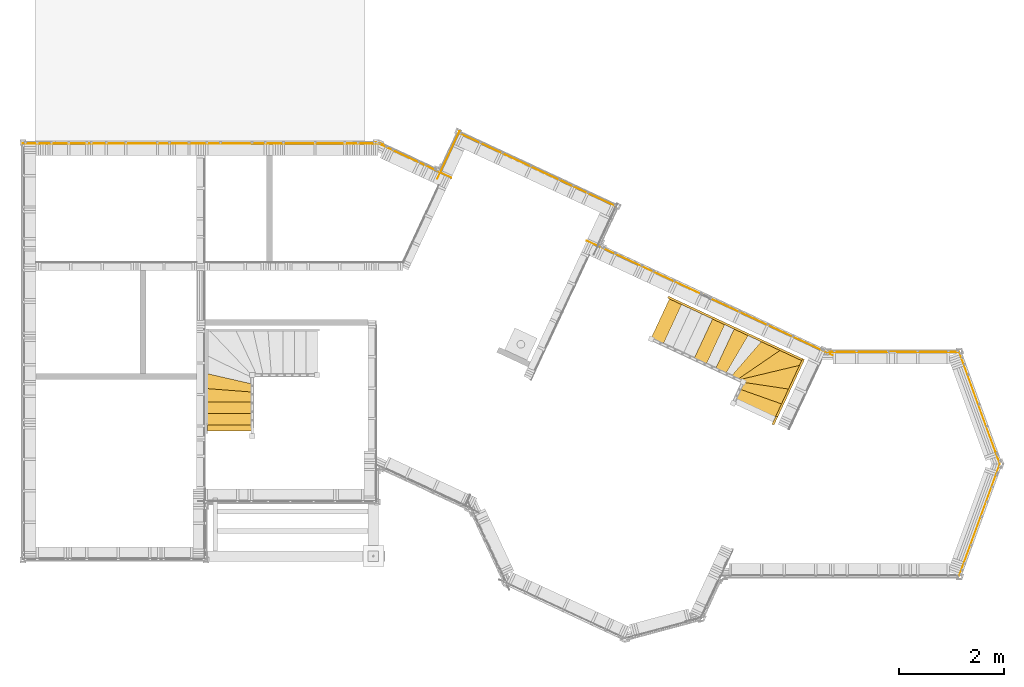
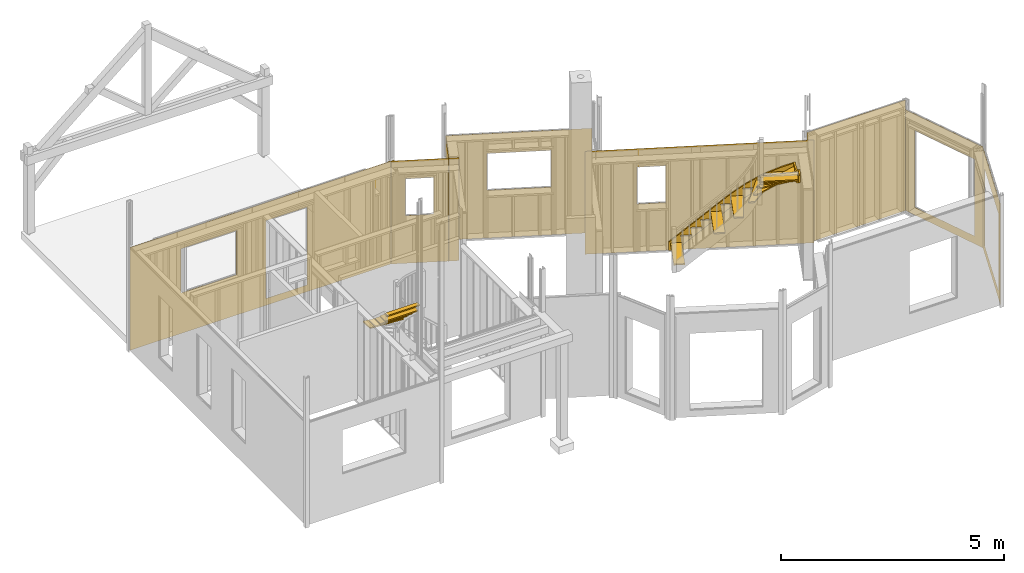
# One storey, part 31 of 34: 23 curtain walls.
"""IFC2X3 building model written with IfcOpenShell, lengths in metres."""

from ifc_helpers import new_model, si_unit, direction, frame, origin_with_axes, place, context, subcontext, project, spatial, faceted_brep, material, element, save


model = new_model("IFC2X3")

# Units and contexts
model_context = context("Model", 3, precision=1e-06, world=origin_with_axes(), true_north=direction((0.0, 1.0, 0.0)))
body_context = subcontext(model_context, "Body", "Model", "MODEL_VIEW")
ifc_project = project(units=[si_unit("LENGTHUNIT", "METRE"), si_unit("AREAUNIT", "SQUARE_METRE"), si_unit("VOLUMEUNIT", "CUBIC_METRE"), si_unit("PLANEANGLEUNIT", "RADIAN")], contexts=[model_context])

# Site, building, storey
site_placement = place(None, origin_with_axes())
site = spatial("IfcSite", under=ifc_project, at=site_placement, CompositionType="ELEMENT")
building_placement = place(site_placement, origin_with_axes())
building = spatial("IfcBuilding", under=site, at=building_placement, Name="Building 1", CompositionType="ELEMENT")
storey_placement = place(building_placement, origin_with_axes())
storey = spatial("IfcBuildingStorey", under=building, at=storey_placement, Name="Rez de chaussée", CompositionType="ELEMENT", Elevation=0.0)

# Curtain walls
ifc_material_1 = material(Name="NH II")
curtain_wall_1_placement = place(storey_placement, frame((14.3866404, 2.8070791, 2.764718), z_axis=(0.0, 0.0, 1.0), x_axis=(-0.9423753, 0.3345575, 0.0)))
element("IfcCurtainWall", 1, at=curtain_wall_1_placement, inside=storey, material=ifc_material_1, Name="Escalier", context=body_context, shape_type="Brep", body=[
    faceted_brep([(0.8537203, -0.14773, -0.0155), (0.8537203, -0.14773, 0.0155), (0.8377422, -0.14773, 0.0155), (0.8377422, -0.14773, -0.0155), (0.8742177, 0.0669349, 0.0155), (0.0280663, 0.14773, 0.0155), (0.0, -0.1462031, 0.0155), (0.0159276, -0.147724, 0.0155), (0.8376484, -0.147721, 0.0155), (0.8742177, 0.0669349, -0.0155), (0.0280663, 0.14773, -0.0155), (0.0, -0.1462031, -0.0155), (0.0159276, -0.147724, -0.0155), (0.8376484, -0.147721, -0.0155)], [[[0, 1, 2, 3]], [[2, 1, 4, 5, 6, 7, 8]], [[1, 0, 9, 4]], [[10, 11, 6, 5]], [[11, 12, 7, 6]], [[3, 2, 8, 13]], [[12, 13, 8, 7]], [[0, 3, 13, 12, 11, 10, 9]], [[9, 10, 5, 4]]]),
])
curtain_wall_2_placement = place(storey_placement, frame((14.8240701, 3.4837384, 2.363146), z_axis=(0.0, 0.0, 1.0), x_axis=(-0.9727415, -0.231892, 0.0)))
element("IfcCurtainWall", 2, at=curtain_wall_2_placement, inside=storey, material=ifc_material_1, Name="Escalier", context=body_context, shape_type="Brep", body=[
    faceted_brep([(0.325324, 0.210136, -0.0155), (1.1323533, -0.1143808, -0.0155), (1.144891, -0.1243211, -0.0155), (1.1220689, -0.1531066, -0.0155), (1.1781826, -0.1975953, -0.0155), (1.1682424, -0.2101329, -0.0155), (0.0125376, -0.210136, -0.0155), (0.0, -0.2001958, -0.0155), (0.325324, 0.210136, 0.0155), (0.0, -0.2001958, 0.0155), (0.0125376, -0.210136, 0.0155), (1.1781826, -0.1975953, 0.0155), (1.1682424, -0.2101329, 0.0155), (1.1220689, -0.1531066, 0.0155), (1.144891, -0.1243211, 0.0155), (1.1323533, -0.1143808, 0.0155)], [[[0, 1, 2, 3, 4, 5, 6, 7]], [[8, 0, 7, 9]], [[7, 6, 10, 9]], [[5, 4, 11, 12]], [[4, 3, 13, 11]], [[3, 2, 14, 13]], [[2, 1, 15, 14]], [[6, 5, 12, 10]], [[15, 8, 9, 10, 12, 11, 13, 14]], [[1, 0, 8, 15]]]),
])
ifc_material_2 = material(Name="pare-pluie")
curtain_wall_3_placement = place(storey_placement, frame((13.0548426, 4.9657206, -0.06), z_axis=(0.0, 0.0, 1.0), x_axis=(0.9063078, -0.4226183, 0.0)))
element("IfcCurtainWall", 3, at=curtain_wall_3_placement, inside=storey, material=ifc_material_2, Name="Pare-pluie", context=body_context, shape_type="Brep", body=[
    faceted_brep([(-0.769095, 0.00045, 2.32), (-0.769095, 0.00045, 1.312), (-0.769095, -0.00045, 1.312), (-0.769095, -0.00045, 2.32), (-1.409095, 0.00045, 2.32), (-1.409095, -0.00045, 2.32), (-1.409095, 0.00045, 1.312), (-1.409095, -0.00045, 1.312), (-2.581403, -0.00045, 2.823), (-2.581403, 0.00045, 2.823), (-2.581403, 0.00045, 0.0), (-2.581403, -0.00045, 0.0), (2.581403, -0.00045, 2.823), (2.581403, 0.00045, 2.823), (2.581403, 0.00045, 0.0), (2.581403, -0.00045, 0.0)], [[[0, 1, 2, 3]], [[4, 0, 3, 5]], [[6, 4, 5, 7]], [[1, 6, 7, 2]], [[8, 9, 10, 11]], [[12, 13, 9, 8]], [[9, 13, 14, 10], [0, 4, 6, 1]], [[13, 12, 15, 14]], [[14, 15, 11, 10]], [[12, 8, 11, 15], [7, 5, 3, 2]]]),
])
curtain_wall_4_placement = place(storey_placement, frame((4.348771, 3.0365129, 2.363146), z_axis=(0.0, 0.0, 1.0), x_axis=(-0.9970951, 0.0761669, 0.0)))
element("IfcCurtainWall", 4, at=curtain_wall_4_placement, inside=storey, material=ifc_material_1, Name="Escalier", context=body_context, shape_type="Brep", body=[
    faceted_brep([(0.3060289, -0.1405103, -0.0155), (0.3060289, -0.1405103, 0.0155), (0.0165213, -0.1405103, 0.0155), (0.0165213, -0.1405103, -0.0155), (0.8529507, -0.1405063, 0.0155), (0.8689042, -0.1392876, 0.0155), (0.8475308, 0.1405103, 0.0155), (0.0, 0.0757684, 0.0155), (0.8529507, -0.1405063, -0.0155), (0.0, 0.0757684, -0.0155), (0.8689042, -0.1392876, -0.0155), (0.8475308, 0.1405103, -0.0155)], [[[0, 1, 2, 3]], [[2, 1, 4, 5, 6, 7]], [[1, 0, 8, 4]], [[3, 2, 7, 9]], [[8, 10, 5, 4]], [[10, 11, 6, 5]], [[0, 3, 9, 11, 10, 8]], [[11, 9, 7, 6]]]),
])
curtain_wall_5_placement = place(storey_placement, frame((18.1920569, 2.8743259, -0.06), z_axis=(0.0, 0.0, 1.0), x_axis=(0.3420201, -0.9396926, 0.0)))
element("IfcCurtainWall", 5, at=curtain_wall_5_placement, inside=storey, material=ifc_material_2, Name="Pare-pluie", context=body_context, shape_type="Brep", body=[
    faceted_brep([(-1.1337751, 0.00045, 2.77), (-1.1337751, 0.00045, 0.0), (-1.1341026, -0.00045, 0.0), (-1.1341026, -0.00045, 2.77), (1.1330301, 0.00045, 0.0), (1.1341026, -0.00045, 0.0), (1.1330301, 0.00045, 2.77), (-0.8556301, 0.00045, 2.32), (-0.8556301, 0.00045, 0.212), (0.8932985, 0.00045, 0.212), (0.8932985, 0.00045, 2.32), (1.1341026, -0.00045, 2.77), (-0.8556301, -0.00045, 0.212), (-0.8556301, -0.00045, 2.32), (0.8932985, -0.00045, 2.32), (0.8932985, -0.00045, 0.212)], [[[0, 1, 2, 3]], [[2, 1, 4, 5]], [[1, 0, 6, 4], [7, 8, 9, 10]], [[5, 4, 6, 11]], [[0, 3, 11, 6]], [[3, 2, 5, 11], [12, 13, 14, 15]], [[15, 14, 10, 9]], [[12, 15, 9, 8]], [[13, 12, 8, 7]], [[14, 13, 7, 10]]]),
])
curtain_wall_6_placement = place(storey_placement, frame((4.343, 2.6469026, 2.764718), z_axis=(0.0, 0.0, 1.0), x_axis=(-1.0, 0.0, 0.0)))
element("IfcCurtainWall", 6, at=curtain_wall_6_placement, inside=storey, material=ifc_material_1, Name="Escalier", context=body_context, shape_type="Brep", body=[
    faceted_brep([(0.0, 0.124685, -0.0155), (0.0, -0.124685, -0.0155), (0.0, -0.124685, 0.0155), (0.0, 0.124685, 0.0155), (0.85, -0.124685, -0.0155), (0.85, 0.124685, -0.0155), (0.85, 0.124685, 0.0155), (0.85, -0.124685, 0.0155)], [[[0, 1, 2, 3]], [[4, 5, 6, 7]], [[1, 4, 7, 2]], [[2, 7, 6, 3]], [[0, 5, 4, 1]], [[5, 0, 3, 6]]]),
])
curtain_wall_7_placement = place(storey_placement, frame((18.1916537, 0.744126, -0.06), z_axis=(0.0, 0.0, 1.0), x_axis=(-0.3420201, -0.9396926, 0.0)))
element("IfcCurtainWall", 7, at=curtain_wall_7_placement, inside=storey, material=ifc_material_2, Name="Pare-pluie", context=body_context, shape_type="Brep", body=[
    faceted_brep([(-1.1328088, 0.00045, 0.0), (-1.1338814, -0.00045, 0.0), (-1.1338814, -0.00045, 2.77), (-1.1328088, 0.00045, 2.77), (1.1338814, -0.00045, 0.0), (1.1338814, -0.00045, 2.77), (-0.8944773, -0.00045, 0.212), (-0.8944773, -0.00045, 2.32), (0.8544511, -0.00045, 2.32), (0.8544511, -0.00045, 0.212), (1.1335538, 0.00045, 0.0), (1.1335538, 0.00045, 2.77), (-0.8944773, 0.00045, 0.212), (0.8544511, 0.00045, 0.212), (0.8544511, 0.00045, 2.32), (-0.8944773, 0.00045, 2.32)], [[[0, 1, 2, 3]], [[2, 1, 4, 5], [6, 7, 8, 9]], [[1, 0, 10, 4]], [[0, 3, 11, 10], [12, 13, 14, 15]], [[4, 10, 11, 5]], [[3, 2, 5, 11]], [[9, 8, 14, 13]], [[6, 9, 13, 12]], [[7, 6, 12, 15]], [[8, 7, 15, 14]]]),
])
curtain_wall_8_placement = place(storey_placement, frame((12.4111876, 4.9099669, 0.355286), z_axis=(0.0, 0.0, 1.0), x_axis=(-0.4226183, -0.9063078, 0.0)))
element("IfcCurtainWall", 8, at=curtain_wall_8_placement, inside=storey, material=ifc_material_1, Name="Escalier", context=body_context, shape_type="Brep", body=[
    faceted_brep([(0.0, 0.12811, -0.0155), (0.0, -0.12811, -0.0155), (0.0, -0.12811, 0.0155), (0.0, 0.12811, 0.0155), (0.85, -0.12811, -0.0155), (0.85, 0.12811, -0.0155), (0.85, 0.12811, 0.0155), (0.85, -0.12811, 0.0155)], [[[0, 1, 2, 3]], [[4, 5, 6, 7]], [[1, 4, 7, 2]], [[2, 7, 6, 3]], [[0, 5, 4, 1]], [[5, 0, 3, 6]]]),
])
curtain_wall_9_placement = place(storey_placement, frame((16.5287131, 3.9403299, -0.06), z_axis=(0.0, 0.0, 1.0), x_axis=(1.0, 0.0, 0.0)))
element("IfcCurtainWall", 9, at=curtain_wall_9_placement, inside=storey, material=ifc_material_2, Name="Pare-pluie", context=body_context, shape_type="Brep", body=[
    faceted_brep([(1.275035, -0.00045, 0.0), (1.2747074, 0.00045, 0.0), (1.2747074, 0.00045, 3.04), (1.275035, -0.00045, 3.04), (-1.275035, 0.00045, 0.0), (-1.275035, 0.00045, 3.04), (-1.275035, -0.00045, 0.0), (-1.275035, -0.00045, 3.04)], [[[0, 1, 2, 3]], [[2, 1, 4, 5]], [[1, 0, 6, 4]], [[3, 2, 5, 7]], [[4, 6, 7, 5]], [[0, 3, 7, 6]]]),
])
curtain_wall_10_placement = place(storey_placement, frame((12.1876409, 5.0191736, 0.2836738), z_axis=(0.5244068, -0.2445349, -0.8155981), x_axis=(0.7391829, -0.3446866, 0.5786188)))
element("IfcCurtainWall", 10, at=curtain_wall_10_placement, inside=storey, material=ifc_material_1, Name="Escalier", context=body_context, shape_type="Brep", body=[
    faceted_brep([(0.1347243, -0.0205, 0.2349537), (1.7630848, -0.0205, 0.056974), (0.1347243, 0.0205, 0.2349537), (1.7630848, 0.0205, 0.056974), (0.0, -0.0205, 0.1393747), (0.1265827, -0.0205, -0.0390512), (1.862701, -0.0205, -0.2288043), (2.0921516, -0.0205, 0.0352035), (2.1522899, -0.0205, -0.2498051), (2.4218751, -0.0205, 0.0416356), (2.4426393, -0.0205, -0.2496422), (2.7322044, -0.0205, -0.2283163), (2.7498424, -0.0205, 0.0762233), (3.019445, -0.0205, -0.1859411), (3.0736539, -0.0205, 0.1387135), (3.3028327, -0.0205, -0.1227418), (3.3909401, -0.0205, 0.2286489), (3.4859002, -0.0205, 0.0947971), (3.5193397, -0.0205, 0.1185204), (3.5808602, -0.0205, -0.0390548), (3.4243797, -0.0205, 0.2523723), (3.0407338, 0.0205, -0.1272199), (3.4546825, 0.0205, 0.1664523), (3.0484564, 0.0045, -0.1217412), (3.4546825, 0.0045, 0.1664523), (3.058671, 0.0205, -0.1525034), (3.0663936, 0.0045, -0.1470247), (3.4726197, 0.0205, 0.1411688), (3.4726197, 0.0045, 0.1411688), (2.6356381, 0.0045, -0.168429), (2.6319024, 0.0205, -0.1710792), (2.9529867, 0.0205, 0.0567112), (2.9529867, 0.0045, 0.0567112), (2.9709239, 0.0045, 0.0314277), (2.9709239, 0.0205, 0.0314277), (2.6535753, 0.0045, -0.1937125), (2.6498396, 0.0205, -0.1963628), (2.6498396, 0.0204895, -0.1963628), (2.6319024, 0.0204895, -0.1710792), (2.2687564, 0.0045, -0.1825274), (2.2675129, 0.0205, -0.1834096), (2.5411734, 0.0205, 0.0107364), (2.5411734, 0.0045, 0.0107364), (2.5591106, 0.0045, -0.0145471), (2.5591106, 0.0205, -0.0145471), (2.2866936, 0.0045, -0.2078109), (2.28545, 0.0205, -0.2086932), (2.28545, 0.0204686, -0.2086932), (2.2675129, 0.0204686, -0.1834096), (1.9349806, 0.0205, -0.1731392), (2.1759111, 0.0205, -0.0022132), (1.9349806, 0.0045, -0.1731392), (2.1759111, 0.0045, -0.0022132), (1.9529178, 0.0205, -0.1984227), (1.9529178, 0.0045, -0.1984227), (2.1938483, 0.0205, -0.0274967), (2.1938483, 0.0045, -0.0274967), (1.861199, 0.0205, -0.0173093), (1.861199, 0.0045, -0.0173093), (1.8432618, 0.0205, 0.0079743), (1.8432618, 0.0045, 0.0079743), (1.6342893, 0.0205, -0.1402795), (1.6342893, 0.0045, -0.1402795), (1.6522265, 0.0045, -0.165563), (1.6522265, 0.0205, -0.165563), (1.5605158, 0.0205, 0.0155562), (1.5605158, 0.0045, 0.0155562), (1.5425786, 0.0205, 0.0408398), (1.5425786, 0.0045, 0.0408398), (1.3336061, 0.0205, -0.1074139), (1.3336061, 0.0045, -0.1074139), (1.3515433, 0.0045, -0.1326975), (1.3515433, 0.0205, -0.1326975), (1.2598327, 0.0205, 0.0484218), (1.2598327, 0.0045, 0.0484218), (1.2418955, 0.0205, 0.0737053), (1.2418955, 0.0045, 0.0737053), (1.0329213, 0.0205, -0.0745496), (1.0329213, 0.0045, -0.0745496), (1.0508585, 0.0045, -0.0998331), (1.0508585, 0.0205, -0.0998331), (0.9591414, 0.0205, 0.0812815), (0.9591414, 0.0045, 0.0812815), (0.9412042, 0.0205, 0.106565), (0.9412042, 0.0045, 0.106565), (0.7322357, 0.0205, -0.0416858), (0.7322357, 0.0045, -0.0416858), (0.7501729, 0.0045, -0.0669693), (0.7501729, 0.0205, -0.0669693), (0.6584582, 0.0205, 0.114147), (0.6584582, 0.0045, 0.114147), (0.640521, 0.0205, 0.1394306), (0.640521, 0.0045, 0.1394306), (0.4315509, 0.0205, -0.0088214), (0.4315509, 0.0045, -0.0088214), (0.4494881, 0.0045, -0.034105), (0.4494881, 0.0205, -0.034105), (0.357775, 0.0205, 0.1470125), (0.357775, 0.0045, 0.1470125), (0.3398378, 0.0205, 0.1722961), (0.3398378, 0.0045, 0.1722961), (0.1308653, 0.0205, 0.0240424), (0.1308653, 0.0045, 0.0240424), (0.1488025, 0.0045, -0.0012412), (0.1488025, 0.0205, -0.0012412), (3.5193397, 0.0205, 0.1185204), (3.4243797, 0.0205, 0.2523723), (3.4859002, 0.0205, 0.0947971), (3.3909401, 0.0205, 0.2286489), (3.5808602, 0.0205, -0.0390548), (3.3028327, 0.0205, -0.1227418), (3.019445, 0.0205, -0.1859411), (2.7322044, 0.0205, -0.2283163), (2.4426393, 0.0205, -0.2496422), (2.1522899, 0.0205, -0.2498051), (1.862701, 0.0205, -0.2288043), (0.1265827, 0.0205, -0.0390512), (0.0, 0.0205, 0.1393747), (2.0921516, 0.0205, 0.0352035), (2.4218751, 0.0205, 0.0416356), (2.7498424, 0.0205, 0.0762233), (3.0736539, 0.0205, 0.1387135)], [[[0, 1, 2]], [[2, 1, 3]], [[4, 5, 0]], [[0, 5, 1]], [[5, 6, 1]], [[1, 6, 7]], [[6, 8, 7]], [[7, 8, 9]], [[8, 10, 9]], [[9, 10, 11]], [[9, 11, 12]], [[12, 11, 13]], [[12, 13, 14]], [[14, 13, 15]], [[14, 15, 16]], [[16, 15, 17]], [[16, 17, 18]], [[15, 19, 17]], [[18, 20, 16]], [[21, 22, 23]], [[23, 22, 24]], [[25, 26, 27]], [[27, 26, 28]], [[25, 21, 26]], [[26, 21, 23]], [[23, 24, 26]], [[26, 24, 28]], [[27, 28, 22]], [[22, 28, 24]], [[29, 30, 31]], [[29, 31, 32]], [[33, 34, 35]], [[35, 34, 36]], [[37, 38, 35]], [[35, 38, 29]], [[29, 32, 35]], [[35, 32, 33]], [[32, 31, 33]], [[33, 31, 34]], [[39, 40, 41]], [[39, 41, 42]], [[43, 44, 45]], [[45, 44, 46]], [[47, 48, 45]], [[45, 48, 39]], [[39, 42, 45]], [[45, 42, 43]], [[42, 41, 43]], [[43, 41, 44]], [[49, 50, 51]], [[51, 50, 52]], [[49, 51, 53]], [[53, 51, 54]], [[55, 53, 56]], [[56, 53, 54]], [[51, 52, 54]], [[54, 52, 56]], [[52, 50, 56]], [[56, 50, 55]], [[57, 58, 59]], [[59, 58, 60]], [[61, 59, 62]], [[62, 59, 60]], [[62, 60, 63]], [[63, 60, 58]], [[61, 62, 64]], [[64, 62, 63]], [[57, 64, 58]], [[58, 64, 63]], [[65, 66, 67]], [[67, 66, 68]], [[69, 67, 70]], [[70, 67, 68]], [[70, 68, 71]], [[71, 68, 66]], [[69, 70, 72]], [[72, 70, 71]], [[65, 72, 66]], [[66, 72, 71]], [[73, 74, 75]], [[75, 74, 76]], [[77, 75, 78]], [[78, 75, 76]], [[78, 76, 79]], [[79, 76, 74]], [[77, 78, 80]], [[80, 78, 79]], [[73, 80, 74]], [[74, 80, 79]], [[81, 82, 83]], [[83, 82, 84]], [[85, 83, 86]], [[86, 83, 84]], [[86, 84, 87]], [[87, 84, 82]], [[85, 86, 88]], [[88, 86, 87]], [[81, 88, 82]], [[82, 88, 87]], [[89, 90, 91]], [[91, 90, 92]], [[93, 91, 94]], [[94, 91, 92]], [[94, 92, 95]], [[95, 92, 90]], [[93, 94, 96]], [[96, 94, 95]], [[89, 96, 90]], [[90, 96, 95]], [[97, 98, 99]], [[99, 98, 100]], [[101, 99, 102]], [[102, 99, 100]], [[102, 100, 103]], [[103, 100, 98]], [[101, 102, 104]], [[104, 102, 103]], [[97, 104, 98]], [[98, 104, 103]], [[18, 105, 20]], [[20, 105, 106]], [[107, 105, 17]], [[17, 105, 18]], [[106, 108, 20]], [[20, 108, 16]], [[19, 15, 109]], [[109, 15, 110]], [[15, 13, 110]], [[110, 13, 111]], [[13, 11, 111]], [[111, 11, 112]], [[11, 10, 112]], [[112, 10, 113]], [[10, 8, 113]], [[113, 8, 114]], [[8, 6, 114]], [[114, 6, 115]], [[6, 5, 115]], [[115, 5, 116]], [[117, 116, 4]], [[4, 116, 5]], [[2, 117, 0]], [[0, 117, 4]], [[17, 19, 107]], [[107, 19, 109]], [[1, 7, 3]], [[3, 7, 118]], [[7, 9, 118]], [[118, 9, 119]], [[9, 12, 119]], [[119, 12, 120]], [[12, 14, 120]], [[120, 14, 121]], [[14, 16, 121]], [[121, 16, 108]], [[116, 117, 101]], [[101, 117, 2]], [[101, 2, 99]], [[99, 2, 91]], [[99, 91, 97]], [[97, 91, 93]], [[97, 93, 104]], [[104, 93, 116]], [[104, 116, 101]], [[91, 2, 83]], [[83, 2, 3]], [[83, 3, 75]], [[75, 3, 67]], [[75, 67, 73]], [[73, 67, 69]], [[73, 69, 80]], [[80, 69, 72]], [[80, 72, 115]], [[115, 72, 64]], [[115, 64, 57]], [[21, 111, 34]], [[34, 111, 112]], [[34, 112, 36]], [[36, 112, 113]], [[36, 113, 30]], [[30, 113, 44]], [[30, 44, 120]], [[120, 44, 41]], [[120, 41, 119]], [[119, 41, 40]], [[119, 40, 55]], [[55, 40, 114]], [[55, 114, 53]], [[53, 114, 115]], [[53, 115, 49]], [[49, 115, 57]], [[49, 57, 118]], [[118, 57, 59]], [[118, 59, 3]], [[3, 59, 61]], [[3, 61, 65]], [[65, 61, 72]], [[49, 118, 50]], [[50, 118, 119]], [[50, 119, 55]], [[30, 120, 31]], [[31, 120, 121]], [[31, 121, 34]], [[34, 121, 21]], [[21, 121, 22]], [[22, 121, 108]], [[22, 108, 106]], [[106, 105, 22]], [[22, 105, 27]], [[105, 107, 27]], [[27, 107, 110]], [[27, 110, 25]], [[25, 110, 111]], [[25, 111, 21]], [[107, 109, 110]], [[44, 113, 46]], [[46, 113, 114]], [[46, 114, 40]], [[115, 116, 80]], [[80, 116, 88]], [[80, 88, 77]], [[77, 88, 81]], [[77, 81, 75]], [[75, 81, 83]], [[61, 64, 72]], [[65, 67, 3]], [[88, 96, 85]], [[85, 96, 89]], [[85, 89, 83]], [[83, 89, 91]], [[93, 96, 116]], [[116, 96, 88]]]),
])
curtain_wall_11_placement = place(storey_placement, frame((13.2312965, 4.5275438, 1.15843), z_axis=(0.0, 0.0, 1.0), x_axis=(-0.4226183, -0.9063078, 0.0)))
element("IfcCurtainWall", 11, at=curtain_wall_11_placement, inside=storey, material=ifc_material_1, Name="Escalier", context=body_context, shape_type="Brep", body=[
    faceted_brep([(0.0, 0.12811, -0.0155), (0.0, -0.12811, -0.0155), (0.0, -0.12811, 0.0155), (0.0, 0.12811, 0.0155), (0.85, -0.12811, -0.0155), (0.85, 0.12811, -0.0155), (0.85, 0.12811, 0.0155), (0.85, -0.12811, 0.0155)], [[[0, 1, 2, 3]], [[4, 5, 6, 7]], [[1, 4, 7, 2]], [[2, 7, 6, 3]], [[0, 5, 4, 1]], [[5, 0, 3, 6]]]),
])
curtain_wall_12_placement = place(storey_placement, frame((13.6591115, 4.3280504, 1.560002), z_axis=(0.0, 0.0, 1.0), x_axis=(-0.4226183, -0.9063078, 0.0)))
element("IfcCurtainWall", 12, at=curtain_wall_12_placement, inside=storey, material=ifc_material_1, Name="Escalier", context=body_context, shape_type="Brep", body=[
    faceted_brep([(0.85, 0.068067, 0.0155), (0.016, 0.1477017, 0.0155), (0.0, 0.1477017, 0.0155), (0.0, -0.1477017, 0.0155), (0.85, -0.1477017, 0.0155), (0.0, 0.1477017, -0.0155), (0.0, -0.1477017, -0.0155), (0.016, 0.1477017, -0.0155), (0.85, 0.068067, -0.0155), (0.85, -0.1477017, -0.0155)], [[[0, 1, 2, 3, 4]], [[5, 6, 3, 2]], [[7, 5, 2, 1]], [[8, 0, 4, 9]], [[6, 9, 4, 3]], [[7, 8, 9, 6, 5]], [[8, 7, 1, 0]]]),
])
curtain_wall_13_placement = place(storey_placement, frame((14.8452533, 3.8128129, 2.1470715), z_axis=(-0.2101108, -0.4505841, -0.8676563), x_axis=(-0.3666874, -0.7863637, 0.4971645)))
element("IfcCurtainWall", 13, at=curtain_wall_13_placement, inside=storey, material=ifc_material_1, Name="Escalier", context=body_context, shape_type="Brep", body=[
    faceted_brep([(1.561026, 0.0205, -0.0309406), (1.561026, 0.0045, -0.0309406), (1.4621132, 0.0205, -0.0876174), (1.4621132, 0.0045, -0.0876174), (1.5764361, 0.0045, -0.0578345), (1.4775253, 0.0045, -0.1145147), (1.4775253, 0.0205, -0.1145147), (1.5764381, 0.0205, -0.057838), (1.5764361, -0.0205, -0.0578345), (1.4678817, -0.0205, 0.1316156), (1.4678817, 0.0205, 0.1316156), (1.3883192, 0.0205, 0.1015108), (1.3883192, 0.0045, 0.1015108), (1.1321263, 0.0205, -0.045287), (1.1321263, 0.0045, -0.045287), (1.1475384, 0.0205, -0.0721843), (1.1475384, 0.0045, -0.0721843), (1.4037313, 0.0205, 0.0746135), (1.4037313, 0.0045, 0.0746135), (1.0584455, 0.0205, 0.1439061), (1.0571199, 0.0045, 0.1431465), (0.7612815, 0.0205, -0.026368), (0.7612815, 0.0045, -0.026368), (1.0738576, 0.0205, 0.1170087), (0.7766936, 0.0205, -0.0532654), (1.072532, 0.0045, 0.1162492), (0.7766936, 0.0045, -0.0532654), (0.704018, 0.0205, 0.1365036), (0.245558, 0.0205, -0.1261926), (0.699905, 0.0045, 0.1341469), (0.245558, 0.0045, -0.1261926), (0.6886059, 0.0205, 0.163401), (0.6844929, 0.0045, 0.1610443), (0.2301459, 0.0205, -0.0992952), (0.2301459, 0.0045, -0.0992952), (0.0589687, 0.0045, -0.0016958), (0.1679458, 0.0045, 0.0607478), (0.0589687, 0.0205, -0.0016958), (0.1789523, 0.0205, 0.0670545), (0.1635402, 0.0205, 0.0939518), (0.1525337, 0.0045, 0.0876451), (0.0435566, 0.0045, 0.0252015), (0.0435566, 0.0205, 0.0252015), (1.6163396, 0.0205, -0.0349699), (1.6362262, 0.0205, -0.0696761), (1.4857487, 0.0205, -0.1558993), (1.074707, 0.0205, 0.1821432), (0.9876612, 0.0205, -0.0975558), (1.1534362, 0.0205, -0.1132718), (0.8212098, 0.0205, -0.0928336), (0.6548104, 0.0205, -0.0991258), (0.3250763, 0.0205, -0.1445955), (0.4891911, 0.0205, -0.116405), (0.1631843, 0.0205, -0.1835739), (0.0815922, 0.0205, -0.0411785), (0.1276104, 0.0205, -0.2039577), (0.0460182, 0.0205, -0.0615622), (0.0, 0.0205, 0.1012169), (0.1754593, 0.0205, 0.1449616), (0.353475, 0.0205, 0.1767418), (0.5332321, 0.0205, 0.1964122), (0.713908, 0.0205, 0.2038827), (0.8946754, 0.0205, 0.1991191), (0.1276104, -0.0205, -0.2039577), (0.0460182, -0.0205, -0.0615622), (0.0815922, -0.0205, -0.0411785), (0.1631843, -0.0205, -0.1835739), (1.4857487, -0.0205, -0.1558993), (1.6362262, -0.0205, -0.0696761), (1.6163396, -0.0205, -0.0349699), (1.074707, -0.0205, 0.1821432), (0.0, -0.0205, 0.1012169), (0.1754593, -0.0205, 0.1449616), (0.353475, -0.0205, 0.1767418), (0.5332321, -0.0205, 0.1964122), (0.713908, -0.0205, 0.2038827), (0.8946754, -0.0205, 0.1991191), (1.1534362, -0.0205, -0.1132718), (0.9876612, -0.0205, -0.0975558), (0.8212098, -0.0205, -0.0928336), (0.6548104, -0.0205, -0.0991258), (0.4891911, -0.0205, -0.116405), (0.3250763, -0.0205, -0.1445955)], [[[0, 1, 2]], [[2, 1, 3]], [[1, 4, 3]], [[3, 4, 5]], [[2, 3, 6]], [[6, 3, 5]], [[6, 5, 7]], [[7, 5, 4]], [[4, 1, 8]], [[8, 1, 9]], [[0, 10, 1]], [[1, 10, 9]], [[11, 12, 13]], [[13, 12, 14]], [[15, 16, 17]], [[17, 16, 18]], [[14, 12, 16]], [[16, 12, 18]], [[13, 14, 15]], [[15, 14, 16]], [[17, 18, 11]], [[11, 18, 12]], [[19, 20, 21]], [[21, 20, 22]], [[23, 24, 25]], [[25, 24, 26]], [[25, 26, 20]], [[20, 26, 22]], [[21, 22, 24]], [[24, 22, 26]], [[23, 25, 19]], [[19, 25, 20]], [[27, 28, 29]], [[29, 28, 30]], [[27, 29, 31]], [[31, 29, 32]], [[31, 32, 33]], [[33, 32, 34]], [[29, 30, 32]], [[32, 30, 34]], [[33, 34, 28]], [[28, 34, 30]], [[35, 36, 37]], [[37, 36, 38]], [[38, 36, 39]], [[39, 36, 40]], [[41, 40, 35]], [[35, 40, 36]], [[41, 42, 40]], [[40, 42, 39]], [[7, 43, 44]], [[7, 44, 45]], [[46, 11, 23]], [[23, 11, 13]], [[23, 13, 47]], [[47, 13, 15]], [[47, 15, 48]], [[48, 15, 2]], [[48, 2, 45]], [[45, 2, 6]], [[45, 6, 7]], [[23, 47, 24]], [[24, 47, 49]], [[24, 49, 50]], [[51, 28, 52]], [[52, 28, 27]], [[52, 27, 50]], [[50, 27, 21]], [[50, 21, 24]], [[51, 53, 28]], [[28, 53, 33]], [[33, 53, 54]], [[54, 53, 55]], [[54, 55, 56]], [[37, 38, 54]], [[54, 38, 33]], [[42, 57, 39]], [[39, 57, 58]], [[39, 58, 38]], [[38, 58, 59]], [[38, 59, 33]], [[33, 59, 60]], [[33, 60, 31]], [[31, 60, 61]], [[31, 61, 27]], [[27, 61, 62]], [[27, 62, 21]], [[21, 62, 19]], [[62, 46, 19]], [[19, 46, 23]], [[46, 10, 11]], [[11, 10, 17]], [[10, 0, 17]], [[17, 0, 2]], [[17, 2, 15]], [[55, 63, 56]], [[56, 63, 64]], [[65, 54, 64]], [[64, 54, 56]], [[53, 66, 55]], [[55, 66, 63]], [[45, 44, 67]], [[67, 44, 68]], [[44, 43, 68]], [[68, 43, 69]], [[8, 69, 4]], [[4, 69, 43]], [[4, 43, 7]], [[10, 46, 9]], [[9, 46, 70]], [[71, 72, 57]], [[57, 72, 58]], [[72, 73, 58]], [[58, 73, 59]], [[73, 74, 59]], [[59, 74, 60]], [[74, 75, 60]], [[60, 75, 61]], [[75, 76, 61]], [[61, 76, 62]], [[76, 70, 62]], [[62, 70, 46]], [[67, 77, 45]], [[45, 77, 48]], [[68, 8, 67]], [[67, 8, 9]], [[67, 9, 77]], [[77, 9, 70]], [[77, 70, 78]], [[78, 70, 76]], [[78, 76, 79]], [[79, 76, 75]], [[79, 75, 80]], [[80, 75, 74]], [[80, 74, 81]], [[81, 74, 73]], [[81, 73, 82]], [[82, 73, 72]], [[82, 72, 65]], [[65, 72, 71]], [[68, 69, 8]], [[82, 65, 66]], [[66, 65, 64]], [[66, 64, 63]], [[77, 78, 48]], [[48, 78, 47]], [[78, 79, 47]], [[47, 79, 49]], [[79, 80, 49]], [[49, 80, 50]], [[80, 81, 50]], [[50, 81, 52]], [[81, 82, 52]], [[52, 82, 51]], [[82, 66, 51]], [[51, 66, 53]], [[37, 54, 35]], [[35, 54, 65]], [[35, 65, 41]], [[41, 65, 71]], [[41, 71, 57]], [[57, 42, 41]]]),
])
curtain_wall_14_placement = place(storey_placement, frame((14.5437457, 3.0685349, 2.563932), z_axis=(0.0, 0.0, 1.0), x_axis=(-0.9890231, 0.1477612, 0.0)))
element("IfcCurtainWall", 14, at=curtain_wall_14_placement, inside=storey, material=ifc_material_1, Name="Escalier", context=body_context, shape_type="Brep", body=[
    faceted_brep([(0.9191199, 0.0051775, 0.0155), (0.0968546, 0.165731, 0.0155), (0.0, -0.161186, 0.0155), (0.0153409, -0.165731, 0.0155), (0.8684866, -0.1657272, 0.0155), (0.8851728, -0.165731, 0.0155), (0.9344608, 0.0006325, 0.0155), (0.8851728, -0.165731, -0.0155), (0.8684995, -0.165731, -0.0155), (0.9344608, 0.0006325, -0.0155), (0.0968546, 0.165731, -0.0155), (0.0, -0.161186, -0.0155), (0.0153409, -0.165731, -0.0155), (0.9191199, 0.0051775, -0.0155)], [[[0, 1, 2, 3, 4, 5, 6]], [[7, 5, 4, 8]], [[5, 7, 9, 6]], [[1, 10, 11, 2]], [[11, 12, 3, 2]], [[8, 4, 8]], [[9, 13, 0, 6]], [[12, 8, 4, 3]], [[10, 13, 9, 7, 8, 12, 11]], [[13, 10, 1, 0]]]),
])
curtain_wall_15_placement = place(storey_placement, frame((14.2587551, 4.1045908, 1.961574), z_axis=(0.0, 0.0, 1.0), x_axis=(-0.655858, -0.7548843, 0.0)))
element("IfcCurtainWall", 15, at=curtain_wall_15_placement, inside=storey, material=ifc_material_1, Name="Escalier", context=body_context, shape_type="Brep", body=[
    faceted_brep([(0.9530497, -0.05557, -0.0155), (0.9530497, -0.05557, 0.0155), (0.9900742, -0.1848195, 0.0155), (0.9900742, -0.1848195, -0.0155), (0.0153814, 0.1892304, 0.0155), (0.0, 0.1848243, 0.0155), (0.1071507, -0.1892304, 0.0155), (0.1237833, -0.1892304, 0.0155), (0.9746928, -0.1892256, 0.0155), (0.1237833, -0.1892304, -0.0155), (0.1071507, -0.1892304, -0.0155), (0.0, 0.1848243, -0.0155), (0.0153814, 0.1892304, -0.0155), (0.9746928, -0.1892256, -0.0155)], [[[0, 1, 2, 3]], [[1, 4, 5, 6, 7, 8, 2]], [[9, 7, 6, 10]], [[7, 9, 7]], [[10, 6, 5, 11]], [[12, 11, 5, 4]], [[13, 3, 2, 8]], [[9, 13, 8, 7]], [[12, 0, 3, 13, 9, 10, 11]], [[0, 12, 4, 1]]]),
])
curtain_wall_16_placement = place(storey_placement, frame((14.7260008, 3.9307237, 2.16236), z_axis=(0.0, 0.0, 1.0), x_axis=(-0.8252767, -0.5647285, 0.0)))
element("IfcCurtainWall", 16, at=curtain_wall_16_placement, inside=storey, material=ifc_material_1, Name="Escalier", context=body_context, shape_type="Brep", body=[
    faceted_brep([(1.1865601, -0.1577898, -0.0155), (1.1865601, -0.1577898, 0.0155), (1.2365279, -0.2422252, 0.0155), (1.2365279, -0.2422252, -0.0155), (0.1218598, 0.2503764, 0.0155), (0.0, 0.1782612, 0.0155), (0.2536629, -0.2503764, 0.0155), (0.2722546, -0.2503764, 0.0155), (1.2227584, -0.2503739, 0.0155), (0.2722546, -0.2503764, -0.0155), (0.2536629, -0.2503764, -0.0155), (0.0, 0.1782612, -0.0155), (0.1218598, 0.2503764, -0.0155), (1.2227584, -0.2503739, -0.0155)], [[[0, 1, 2, 3]], [[1, 4, 5, 6, 7, 8, 2]], [[9, 7, 6, 10]], [[10, 6, 5, 11]], [[4, 12, 11, 5]], [[13, 3, 2, 8]], [[9, 13, 8, 7]], [[12, 0, 3, 13, 9, 10, 11]], [[0, 12, 4, 1]]]),
])
curtain_wall_17_placement = place(storey_placement, frame((4.343, 2.4952176, 2.965504), z_axis=(0.0, 0.0, 1.0), x_axis=(-1.0, 0.0, 0.0)))
element("IfcCurtainWall", 17, at=curtain_wall_17_placement, inside=storey, material=ifc_material_1, Name="Escalier", context=body_context, shape_type="Brep", body=[
    faceted_brep([(0.0, 0.057, -0.0155), (0.0, -0.057, -0.0155), (0.0, -0.057, 0.0155), (0.0, 0.057, 0.0155), (0.85, -0.057, -0.0155), (0.85, 0.057, -0.0155), (0.85, 0.057, 0.0155), (0.85, -0.057, 0.0155)], [[[0, 1, 2, 3]], [[4, 5, 6, 7]], [[1, 4, 7, 2]], [[2, 7, 6, 3]], [[0, 5, 4, 1]], [[5, 0, 3, 6]]]),
])
curtain_wall_18_placement = place(storey_placement, frame((9.7765473, 7.4082521, -0.06), z_axis=(0.0, 0.0, 1.0), x_axis=(0.9063078, -0.4226183, 0.0)))
element("IfcCurtainWall", 18, at=curtain_wall_18_placement, inside=storey, material=ifc_material_2, Name="Pare-pluie", context=body_context, shape_type="Brep", body=[
    faceted_brep([(-1.6541, 0.00045, 2.865), (-1.6541, 0.00045, 0.0), (-1.6541, -0.00045, 0.0), (-1.6541, -0.00045, 2.865), (1.6541, 0.00045, 0.0), (1.6541, -0.00045, 0.0), (1.6541, 0.00045, 2.865), (-0.7156114, 0.00045, 2.32), (-0.7156114, 0.00045, 1.312), (0.7243886, 0.00045, 1.312), (0.7243886, 0.00045, 2.32), (1.6541, -0.00045, 2.865), (-0.7156114, -0.00045, 1.312), (-0.7156114, -0.00045, 2.32), (0.7243886, -0.00045, 2.32), (0.7243886, -0.00045, 1.312)], [[[0, 1, 2, 3]], [[2, 1, 4, 5]], [[1, 0, 6, 4], [7, 8, 9, 10]], [[5, 4, 6, 11]], [[3, 2, 5, 11], [12, 13, 14, 15]], [[0, 3, 11, 6]], [[15, 14, 10, 9]], [[12, 15, 9, 8]], [[13, 12, 8, 7]], [[14, 13, 7, 10]]]),
])
curtain_wall_19_placement = place(storey_placement, frame((8.0819102, 7.6890901, -0.06), z_axis=(0.0, 0.0, 1.0), x_axis=(0.4226183, 0.9063078, 0.0)))
element("IfcCurtainWall", 19, at=curtain_wall_19_placement, inside=storey, material=ifc_material_2, Name="Pare-pluie", context=body_context, shape_type="Brep", body=[
    faceted_brep([(0.4991089, 0.00045, 0.0), (0.4991089, -0.00045, 0.0), (-0.4991089, -0.00045, 0.0), (-0.4991089, 0.00045, 0.0), (0.4991089, -0.00045, 2.865), (-0.4991089, -0.00045, 2.865), (0.4991089, 0.00045, 2.865), (-0.4991089, 0.00045, 2.865)], [[[0, 1, 2, 3]], [[2, 1, 4, 5]], [[1, 0, 6, 4]], [[0, 3, 7, 6]], [[3, 2, 5, 7]], [[4, 6, 7, 5]]]),
])
curtain_wall_20_placement = place(storey_placement, frame((7.4194442, 7.59355, -0.06), z_axis=(0.0, 0.0, 1.0), x_axis=(0.9063078, -0.4226183, 0.0)))
element("IfcCurtainWall", 20, at=curtain_wall_20_placement, inside=storey, material=ifc_material_2, Name="Pare-pluie", context=body_context, shape_type="Brep", body=[
    faceted_brep([(-0.7925712, -0.00045, 0.0), (-0.7925712, -0.00045, 2.823), (-0.7925712, 0.00045, 2.823), (-0.7925712, 0.00045, 0.0), (0.7925712, -0.00045, 2.823), (0.7925712, 0.00045, 2.823), (0.7925712, -0.00045, 0.0), (-0.4175712, -0.00045, 1.312), (-0.4175712, -0.00045, 2.32), (0.2224288, -0.00045, 2.32), (0.2224288, -0.00045, 1.312), (0.7925712, 0.00045, 0.0), (0.2224288, 0.00045, 2.32), (-0.4175712, 0.00045, 2.32), (-0.4175712, 0.00045, 1.312), (0.2224288, 0.00045, 1.312)], [[[0, 1, 2, 3]], [[2, 1, 4, 5]], [[1, 0, 6, 4], [7, 8, 9, 10]], [[3, 2, 5, 11], [12, 13, 14, 15]], [[9, 8, 13, 12]], [[7, 10, 15, 14]], [[10, 9, 12, 15]], [[8, 7, 14, 13]], [[0, 3, 11, 6]], [[5, 4, 6, 11]]]),
])
curtain_wall_21_placement = place(storey_placement, frame((4.343, 2.8662781, 2.563932), z_axis=(0.0, 0.0, 1.0), x_axis=(-1.0, 0.0, 0.0)))
element("IfcCurtainWall", 21, at=curtain_wall_21_placement, inside=storey, material=ifc_material_1, Name="Escalier", context=body_context, shape_type="Brep", body=[
    faceted_brep([(0.85, -0.124685, -0.0155), (0.85, -0.124685, 0.0155), (0.0, -0.124685, 0.0155), (0.0, -0.124685, -0.0155), (0.85, 0.124685, 0.0155), (0.0, 0.124685, 0.0155), (0.85, 0.124685, -0.0155), (0.0, 0.124685, -0.0155)], [[[0, 1, 2, 3]], [[2, 1, 4, 5]], [[1, 0, 6, 4]], [[3, 2, 5, 7]], [[0, 3, 7, 6]], [[6, 7, 5, 4]]]),
])
curtain_wall_22_placement = place(storey_placement, frame((4.3486859, 3.1738201, 2.16236), z_axis=(0.0, 0.0, 1.0), x_axis=(-0.9747334, 0.2233713, 0.0)))
element("IfcCurtainWall", 22, at=curtain_wall_22_placement, inside=storey, material=ifc_material_1, Name="Escalier", context=body_context, shape_type="Brep", body=[
    faceted_brep([(0.842754, 0.1532221, -0.0155), (0.842754, 0.1532221, 0.0155), (0.9121602, -0.1496482, 0.0155), (0.9121602, -0.1496482, -0.0155), (0.0155957, 0.029029, 0.0155), (0.0, 0.0254551, 0.0155), (0.0409459, -0.1532221, 0.0155), (0.8965645, -0.1532221, 0.0155), (0.8965645, -0.1532221, -0.0155), (0.0409459, -0.1532221, -0.0155), (0.0, 0.0254551, -0.0155), (0.0155957, 0.029029, -0.0155)], [[[0, 1, 2, 3]], [[1, 4, 5, 6, 7, 2]], [[8, 7, 6, 9]], [[9, 6, 5, 10]], [[11, 10, 5, 4]], [[8, 3, 2, 7]], [[11, 0, 3, 8, 9, 10]], [[0, 11, 4, 1]]]),
])
curtain_wall_23_placement = place(storey_placement, frame((3.4080712, 7.90855, -0.06), z_axis=(0.0, 0.0, 1.0), x_axis=(1.0, 0.0, 0.0)))
element("IfcCurtainWall", 23, at=curtain_wall_23_placement, inside=storey, material=ifc_material_2, Name="Pare-pluie", context=body_context, shape_type="Brep", body=[
    faceted_brep([(-3.4330712, 0.00045, 2.823), (3.4330712, 0.00045, 2.823), (3.4330712, 0.00045, 0.0), (-3.4330712, 0.00045, 0.0), (-0.6586968, 0.00045, 2.32), (-2.0986968, 0.00045, 2.32), (-2.0986968, 0.00045, 1.112), (-0.6586968, 0.00045, 1.112), (0.0974288, 0.00045, 0.189), (1.1674288, 0.00045, 0.189), (1.1674288, 0.00045, 2.32), (0.0974288, 0.00045, 2.32), (3.4330712, -0.00045, 0.0), (-3.4330712, -0.00045, 0.0), (3.4330712, -0.00045, 2.823), (-3.4330712, -0.00045, 2.823), (-2.0986968, -0.00045, 1.112), (-2.0986968, -0.00045, 2.32), (-0.6586968, -0.00045, 2.32), (-0.6586968, -0.00045, 1.112), (0.0974288, -0.00045, 0.189), (0.0974288, -0.00045, 2.32), (1.1674288, -0.00045, 2.32), (1.1674288, -0.00045, 0.189)], [[[0, 1, 2, 3], [4, 5, 6, 7], [8, 9, 10, 11]], [[3, 2, 12, 13]], [[14, 15, 13, 12], [16, 17, 18, 19], [20, 21, 22, 23]], [[1, 14, 12, 2]], [[1, 0, 15, 14]], [[19, 18, 4, 7]], [[16, 19, 7, 6]], [[17, 16, 6, 5]], [[18, 17, 5, 4]], [[23, 22, 10, 9]], [[20, 23, 9, 8]], [[21, 20, 8, 11]], [[22, 21, 11, 10]], [[15, 0, 3, 13]]]),
])

save(model, "model.ifc")
